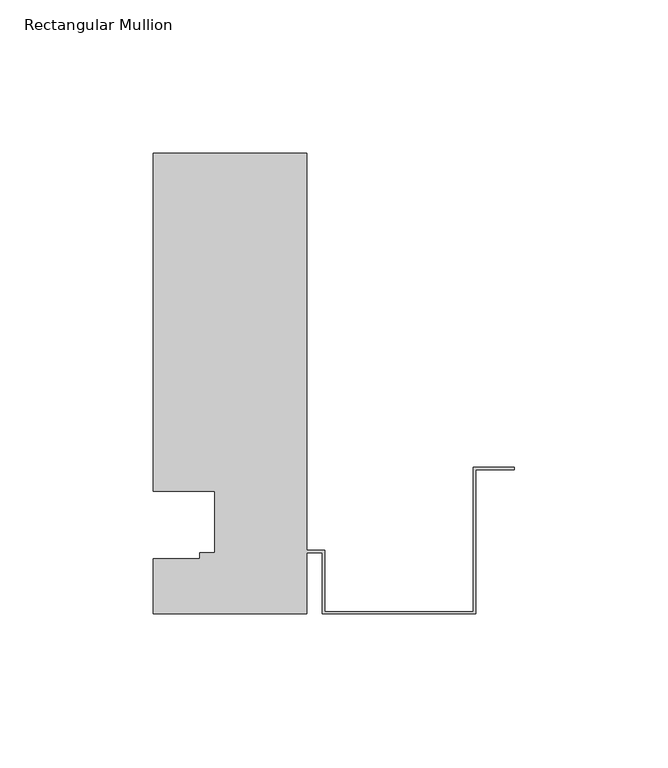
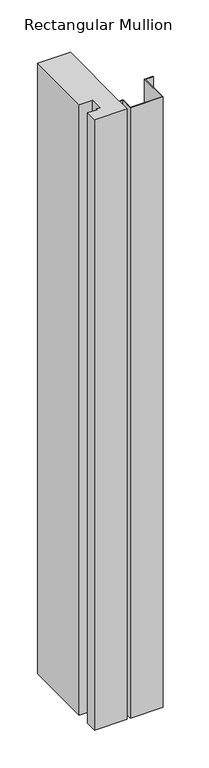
"""IFC4 building model written with IfcOpenShell, lengths in millimetres: member geometry, Rectangular Mullion : TR_CW_ALU_border_TR."""

from ifc_helpers import new_model, si_unit, frame, origin, place, context, project, spatial, polyline, outline, extrude, source, transform, mapped, element, save


def rectangular_mullion_5a3240ae(model_context):
    return source(origin(), model_context, "Body", "SweptSolid", [
        extrude(outline(polyline([(-117.5, 0.0), (-117.5, 18.0204111), (-102.5, 18.0204111), (-102.5, 20.0), (-97.5, 20.0), (-97.5, 40.0), (-117.5, 40.0), (-117.5, 150.0), (-67.5, 150.0), (-67.5, 20.8), (-61.7, 20.8), (-61.7, 0.8), (-13.3, 0.8), (-13.3, 47.8), (0.0, 47.8), (0.0, 47.0), (-12.5, 47.0), (-12.5, 0.0), (-62.5, 0.0), (-62.5, 20.0), (-67.5, 20.0), (-67.5, 0.0), (-117.5, 0.0)])), frame((0.0, 0.0, -985.0), z_axis=(0.0, 0.0, 1.0), x_axis=(1.0, 0.0, 0.0)), (0.0, 0.0, 1.0), 985.0),
    ])


if __name__ == "__main__":
    model = new_model("IFC4")
    model_context = context("Model", 3, world=origin())
    ifc_project = project(units=[si_unit("LENGTHUNIT", "METRE", prefix="MILLI")], contexts=[model_context])
    site = spatial("IfcSite", under=ifc_project)
    building = spatial("IfcBuilding", under=site)
    placement = place(None, origin())
    rectangular_mullion_shape = rectangular_mullion_5a3240ae(model_context)
    element("IfcMember", 1, ObjectType="Rectangular Mullion : TR_CW_ALU_border_TR", at=placement, inside=building, context=model_context, shape_type="MappedRepresentation", body=[
        mapped(rectangular_mullion_shape, transform((0.0, 0.0, 0.0), x_axis=(1.0, 0.0, 0.0), y_axis=(0.0, 1.0, 0.0), z_axis=(0.0, 0.0, 1.0))),
    ])
    save(model, "model.ifc")
